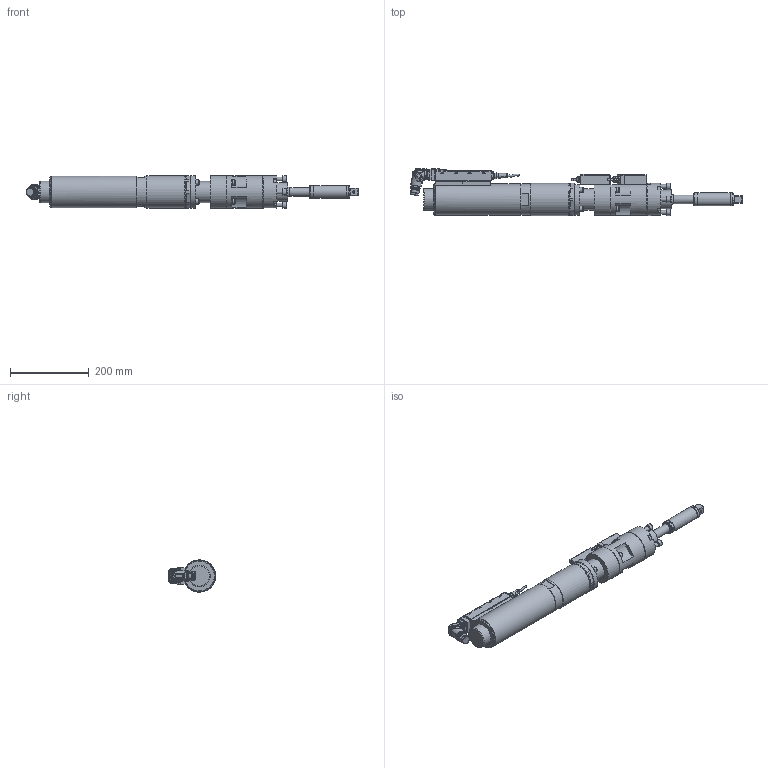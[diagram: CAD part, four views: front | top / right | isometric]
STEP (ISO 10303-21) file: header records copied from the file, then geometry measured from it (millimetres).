
FILE_DESCRIPTION (( 'STEP AP214' ), '1' );
FILE_NAME ('70082459_ESX329DRX300DWAX300AZX350.STEP', '2016-11-14T12:02:20', ( 'admin' ), ( '' ), 'SwSTEP 2.0', 'SolidWorks 2014', '' );
FILE_SCHEMA (( 'AUTOMOTIVE_DESIGN' ));
Length unit declared in the file: millimetre
Products named in the file (12): 70082308; 70082459_ESX329DRX300DWAX300AZX350; 7002133_3; 70082372; 70082354; 70082324; 70082308_ESX329_Standard_Winkel_2; 70082293_2; 70057493_Standard_winkel; 70057493_4; 70057493_3; 70057493_2
Assembly tree (12 placements, depth 4):
  70082459_ESX329DRX300DWAX300AZX350
    70082308_ESX329_Standard_Winkel_2
      70082308
      70057493_Standard_winkel
        70057493_2
        70057493_3
        70057493_4
      70082293_2  x2
    70082324
    70082354
    70082372
    7002133_3
Bounding box: 844.06 x 119.64 x 82 mm (x, y, z)
Volume: 3336443.9 mm3; surface area: 343564.8 mm2
Topology: 14 solids, 18 shells, 3200 faces, 8304 edges, 5357 vertices
Faces by surface type: plane 1566, cylinder 859, cone 416, bspline 270, torus 82, sphere 7
Full cylindrical faces by diameter (mm): 0.5 x14, 0.57 x14, 1.6 x2, 2 x3, 3 x4, 4.2 x1, 4.9 x6, 5 x4, 5.5 x13, 6 x2, 6.5 x1, 6.8 x12, 8 x33, 8.3 x1, 8.459 x2, 8.5 x1, 8.8 x1, 9 x2, 10 x4, 11.08 x3, 11.2 x1, 11.43 x1, 12.3 x2, 13 x16, 14 x4, 14.5 x2, 16 x4, 17.4 x1, 19.75 x2, 20 x1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
Entity records: 106317 total; most frequent: CARTESIAN_POINT 34048, ORIENTED_EDGE 14870, DIRECTION 13348, EDGE_CURVE 7435, VERTEX_POINT 5004, AXIS2_PLACEMENT_3D 4994, EDGE_LOOP 3695, LINE 3360
